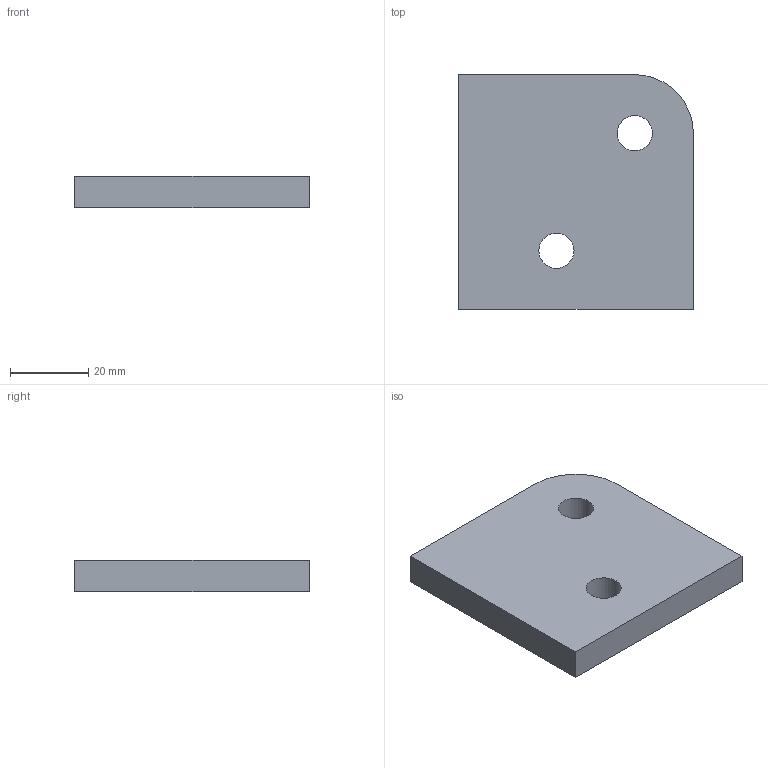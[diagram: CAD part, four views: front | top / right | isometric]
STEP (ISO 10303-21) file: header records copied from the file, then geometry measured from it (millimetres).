
FILE_DESCRIPTION(/* description */ (''),/* implementation_level */ '2;1');
FILE_NAME(/* name */ 'Pos160-Plaatwerk D= 8-S235JRG2-3st',/* time_stamp */ '2024-08-06T13:37:44+02:00',/* author */ (''),/* organization */ (''),/* preprocessor_version */ 'ST-DEVELOPER v16.5',/* originating_system */ 'HiCAD 2024 2901.2 Build 361',/* authorisation */ '');
FILE_SCHEMA (('AUTOMOTIVE_DESIGN { 1 0 10303 214 1 1 1 1 }'));
Length unit declared in the file: millimetre
Products named in the file (1): Pos160-Plaatwerk D= 8-S235JRG2-3st
Bounding box: 60 x 60 x 8 mm (x, y, z)
Volume: 27395.8 mm3; surface area: 9169.8 mm2
Topology: 1 solids, 1 shells, 9 faces, 22 edges, 15 vertices
Faces by surface type: plane 6, cylinder 3
Full cylindrical faces by diameter (mm): 9 x2
Entity records: 467 total; most frequent: DIRECTION 43, CARTESIAN_POINT 42, PRESENTATION_STYLE_ASSIGNMENT 39, COLOUR_RGB 39, DRAUGHTING_PRE_DEFINED_CURVE_FONT 38, CURVE_STYLE 38, OVER_RIDING_STYLED_ITEM 38, ORIENTED_EDGE 38
